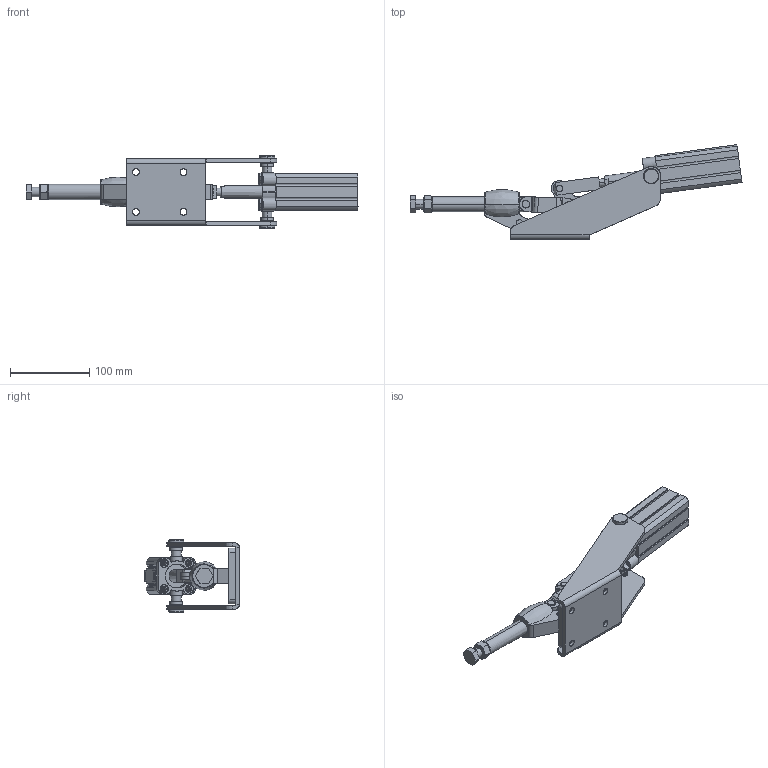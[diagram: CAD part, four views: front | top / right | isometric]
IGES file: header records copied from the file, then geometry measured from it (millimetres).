
Start section: SolidWorks IGES file using analytic representation for surfaces
Global section: file name: C:\Projetos\Grampos\KF-052 P\KF-052 P\KF-052 P.IGS; native system: SolidWorks 2013; preprocessor: SolidWorks 2013; author: Ricardo; date: 140828.153804; units: millimetre
Bounding box: 417.75 x 118.96 x 91.5 mm (x, y, z)
Surface area: 186256.1 mm2 (no closed solid volume)
Topology: 0 solids, 0 shells, 1006 faces, 15884 edges, 15864 vertices
Faces by surface type: bspline 619, revolution 387
